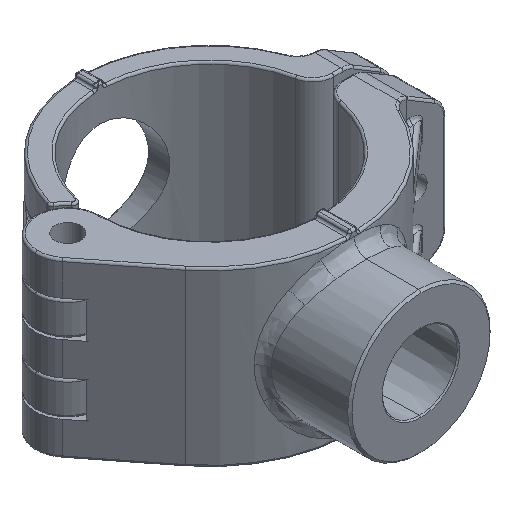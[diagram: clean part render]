
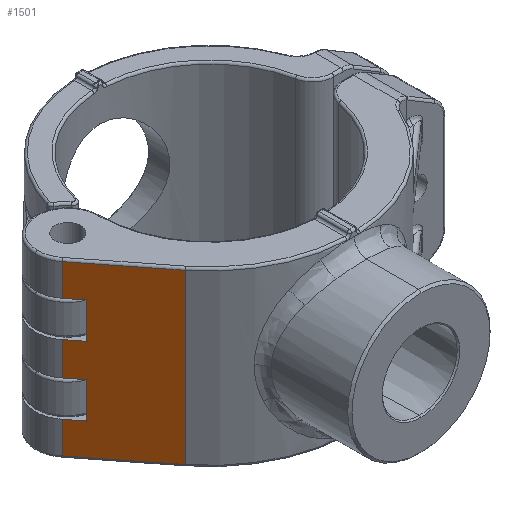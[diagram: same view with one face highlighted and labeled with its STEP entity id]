
A CAD part, isometric view. The second image highlights one B-rep face of the part: STEP entity #1501.
In plain terms, the highlighted planar face has unit normal (-0.787, -0.617, 0).
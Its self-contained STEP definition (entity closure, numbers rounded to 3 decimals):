
#1501=ADVANCED_FACE('',(#1948),#1872,.F.);
#1872=PLANE('',#7501);
#1948=FACE_OUTER_BOUND('',#2331,.T.);
#2331=EDGE_LOOP('',(#2926,#2927,#2928,#2929,#2930,#2931,#2932,#2933,#2934,
#2935,#2936,#2937));
#2926=ORIENTED_EDGE('',*,*,#5973,.F.);
#2927=ORIENTED_EDGE('',*,*,#5974,.F.);
#2928=ORIENTED_EDGE('',*,*,#5975,.F.);
#2929=ORIENTED_EDGE('',*,*,#5976,.F.);
#2930=ORIENTED_EDGE('',*,*,#5977,.F.);
#2931=ORIENTED_EDGE('',*,*,#5978,.F.);
#2932=ORIENTED_EDGE('',*,*,#5979,.F.);
#2933=ORIENTED_EDGE('',*,*,#5980,.F.);
#2934=ORIENTED_EDGE('',*,*,#5981,.F.);
#2935=ORIENTED_EDGE('',*,*,#5982,.F.);
#2936=ORIENTED_EDGE('',*,*,#5983,.F.);
#2937=ORIENTED_EDGE('',*,*,#5835,.F.);
#5055=VERTEX_POINT('',#10183);
#5056=VERTEX_POINT('',#10185);
#5157=VERTEX_POINT('',#10739);
#5158=VERTEX_POINT('',#10743);
#5159=VERTEX_POINT('',#10745);
#5160=VERTEX_POINT('',#10747);
#5161=VERTEX_POINT('',#10749);
#5162=VERTEX_POINT('',#10751);
#5163=VERTEX_POINT('',#10753);
#5164=VERTEX_POINT('',#10755);
#5165=VERTEX_POINT('',#10757);
#5166=VERTEX_POINT('',#10759);
#5835=EDGE_CURVE('',#5055,#5056,#6988,.T.);
#5973=EDGE_CURVE('',#5157,#5055,#7020,.T.);
#5974=EDGE_CURVE('',#5158,#5157,#7021,.T.);
#5975=EDGE_CURVE('',#5159,#5158,#7022,.T.);
#5976=EDGE_CURVE('',#5160,#5159,#7023,.T.);
#5977=EDGE_CURVE('',#5161,#5160,#7024,.T.);
#5978=EDGE_CURVE('',#5162,#5161,#7025,.T.);
#5979=EDGE_CURVE('',#5163,#5162,#7026,.T.);
#5980=EDGE_CURVE('',#5164,#5163,#7027,.T.);
#5981=EDGE_CURVE('',#5165,#5164,#7028,.T.);
#5982=EDGE_CURVE('',#5166,#5165,#7029,.T.);
#5983=EDGE_CURVE('',#5056,#5166,#7030,.T.);
#6988=LINE('',#10184,#7200);
#7020=LINE('',#10740,#7232);
#7021=LINE('',#10742,#7233);
#7022=LINE('',#10744,#7234);
#7023=LINE('',#10746,#7235);
#7024=LINE('',#10748,#7236);
#7025=LINE('',#10750,#7237);
#7026=LINE('',#10752,#7238);
#7027=LINE('',#10754,#7239);
#7028=LINE('',#10756,#7240);
#7029=LINE('',#10758,#7241);
#7030=LINE('',#10760,#7242);
#7200=VECTOR('',#8240,1.);
#7232=VECTOR('',#8444,1.);
#7233=VECTOR('',#8447,1.);
#7234=VECTOR('',#8448,1.);
#7235=VECTOR('',#8449,1.);
#7236=VECTOR('',#8450,1.);
#7237=VECTOR('',#8451,1.);
#7238=VECTOR('',#8452,1.);
#7239=VECTOR('',#8453,1.);
#7240=VECTOR('',#8454,1.);
#7241=VECTOR('',#8455,1.);
#7242=VECTOR('',#8456,1.);
#7501=AXIS2_PLACEMENT_3D('',#10761,#8457,#8458);
#8240=DIRECTION('',(0.,0.,-1.));
#8444=DIRECTION('',(0.617,-0.787,0.));
#8447=DIRECTION('',(0.,0.,1.));
#8448=DIRECTION('',(-0.617,0.787,0.));
#8449=DIRECTION('',(0.,0.,1.));
#8450=DIRECTION('',(0.617,-0.787,0.));
#8451=DIRECTION('',(0.,0.,1.));
#8452=DIRECTION('',(-0.617,0.787,0.));
#8453=DIRECTION('',(0.,0.,1.));
#8454=DIRECTION('',(0.617,-0.787,0.));
#8455=DIRECTION('',(0.,0.,1.));
#8456=DIRECTION('',(-0.617,0.787,0.));
#8457=DIRECTION('',(0.787,0.617,0.));
#8458=DIRECTION('',(0.617,-0.787,0.));
#10183=CARTESIAN_POINT('',(-26.294,-20.596,19.5));
#10184=CARTESIAN_POINT('',(-26.294,-20.596,19.5));
#10185=CARTESIAN_POINT('',(-26.294,-20.596,-19.5));
#10739=CARTESIAN_POINT('',(-38.804,-4.625,19.5));
#10740=CARTESIAN_POINT('',(-38.804,-4.625,19.5));
#10742=CARTESIAN_POINT('',(-38.804,-4.625,12.15));
#10743=CARTESIAN_POINT('',(-38.804,-4.625,12.15));
#10744=CARTESIAN_POINT('',(-36.338,-7.774,12.15));
#10745=CARTESIAN_POINT('',(-36.338,-7.774,12.15));
#10746=CARTESIAN_POINT('',(-36.338,-7.774,3.85));
#10747=CARTESIAN_POINT('',(-36.338,-7.774,3.85));
#10748=CARTESIAN_POINT('',(-38.804,-4.625,3.85));
#10749=CARTESIAN_POINT('',(-38.804,-4.625,3.85));
#10750=CARTESIAN_POINT('',(-38.804,-4.625,-3.85));
#10751=CARTESIAN_POINT('',(-38.804,-4.625,-3.85));
#10752=CARTESIAN_POINT('',(-36.338,-7.774,-3.85));
#10753=CARTESIAN_POINT('',(-36.338,-7.774,-3.85));
#10754=CARTESIAN_POINT('',(-36.338,-7.774,-12.15));
#10755=CARTESIAN_POINT('',(-36.338,-7.774,-12.15));
#10756=CARTESIAN_POINT('',(-38.804,-4.625,-12.15));
#10757=CARTESIAN_POINT('',(-38.804,-4.625,-12.15));
#10758=CARTESIAN_POINT('',(-38.804,-4.625,-19.5));
#10759=CARTESIAN_POINT('',(-38.804,-4.625,-19.5));
#10760=CARTESIAN_POINT('',(-26.294,-20.596,-19.5));
#10761=CARTESIAN_POINT('',(-26.294,-20.596,-20.));
